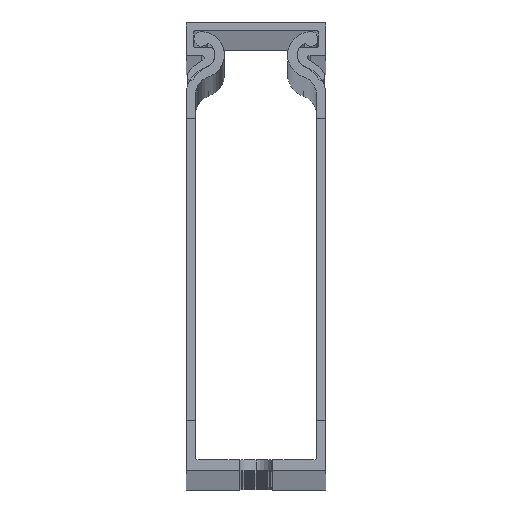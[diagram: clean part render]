
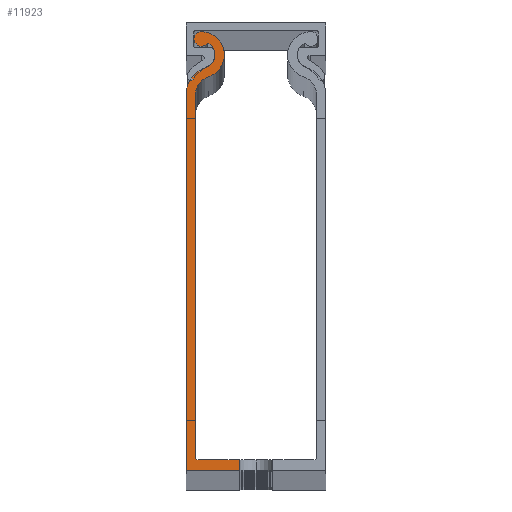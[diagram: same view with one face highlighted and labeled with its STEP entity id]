
A CAD part, top view. The second image highlights one B-rep face of the part: STEP entity #11923.
In plain terms, the highlighted planar face has unit normal (0, 0, 1).
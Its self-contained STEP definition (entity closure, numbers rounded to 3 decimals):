
#88 = CARTESIAN_POINT ( 'NONE',  ( 2561.007, 1284.233, 2000. ) ) ;
#339 = VERTEX_POINT ( 'NONE', #44025 ) ;
#529 = VERTEX_POINT ( 'NONE', #25516 ) ;
#583 = VECTOR ( 'NONE', #41980, 1000. ) ;
#1182 = VERTEX_POINT ( 'NONE', #14574 ) ;
#1408 = ORIENTED_EDGE ( 'NONE', *, *, #51309, .F. ) ;
#2083 = VERTEX_POINT ( 'NONE', #3494 ) ;
#2324 = DIRECTION ( 'NONE',  ( 1., 0., 0. ) ) ;
#2424 = DIRECTION ( 'NONE',  ( 0., 0., 1. ) ) ;
#2652 = VERTEX_POINT ( 'NONE', #40066 ) ;
#2765 = VERTEX_POINT ( 'NONE', #40251 ) ;
#2894 = DIRECTION ( 'NONE',  ( 1., 0., 0. ) ) ;
#3494 = CARTESIAN_POINT ( 'NONE',  ( 2559.41, 1289.077, 2000. ) ) ;
#3815 = CIRCLE ( 'NONE', #46711, 3.4 ) ;
#6164 = DIRECTION ( 'NONE',  ( 0., 0., 1. ) ) ;
#6311 = AXIS2_PLACEMENT_3D ( 'NONE', #47478, #2424, #51828 ) ;
#8371 = CARTESIAN_POINT ( 'NONE',  ( 2559.787, 1293.474, 2000. ) ) ;
#8866 = AXIS2_PLACEMENT_3D ( 'NONE', #31310, #6164, #34917 ) ;
#10380 = ORIENTED_EDGE ( 'NONE', *, *, #27915, .T. ) ;
#10501 = ORIENTED_EDGE ( 'NONE', *, *, #35392, .F. ) ;
#10719 = VERTEX_POINT ( 'NONE', #8371 ) ;
#10963 = CARTESIAN_POINT ( 'NONE',  ( 2558.657, 1294.213, 2000. ) ) ;
#11005 = AXIS2_PLACEMENT_3D ( 'NONE', #14173, #38954, #2324 ) ;
#11206 = EDGE_CURVE ( 'NONE', #24131, #2765, #3815, .T. ) ;
#11239 = ORIENTED_EDGE ( 'NONE', *, *, #17576, .F. ) ;
#11923 = ADVANCED_FACE ( 'NONE', ( #24902 ), #38502, .T. ) ;
#12255 = ORIENTED_EDGE ( 'NONE', *, *, #14363, .T. ) ;
#12573 = VECTOR ( 'NONE', #23634, 1000. ) ;
#12785 = VECTOR ( 'NONE', #29796, 1000. ) ;
#12791 = ORIENTED_EDGE ( 'NONE', *, *, #51377, .F. ) ;
#13501 = AXIS2_PLACEMENT_3D ( 'NONE', #17180, #21149, #25277 ) ;
#13698 = DIRECTION ( 'NONE',  ( 0., 0., 1. ) ) ;
#14173 = CARTESIAN_POINT ( 'NONE',  ( 2561.007, 1284.233, 2000. ) ) ;
#14363 = EDGE_CURVE ( 'NONE', #45404, #31692, #25280, .T. ) ;
#14574 = CARTESIAN_POINT ( 'NONE',  ( 2555.907, 1284.233, 2000. ) ) ;
#14863 = AXIS2_PLACEMENT_3D ( 'NONE', #10963, #39352, #2894 ) ;
#15390 = CIRCLE ( 'NONE', #11005, 5.1 ) ;
#16237 = DIRECTION ( 'NONE',  ( 0., 0., 1. ) ) ;
#16426 = DIRECTION ( 'NONE',  ( 0., 0., 1. ) ) ;
#16429 = DIRECTION ( 'NONE',  ( 1., 0., 0. ) ) ;
#16482 = EDGE_CURVE ( 'NONE', #31822, #2652, #45505, .T. ) ;
#17180 = CARTESIAN_POINT ( 'NONE',  ( 2558.657, 1294.213, 2000. ) ) ;
#17301 = EDGE_LOOP ( 'NONE', ( #33429, #1408, #10501, #11239, #34842, #34073, #28991, #12255, #32061, #48024, #22046, #10380, #12791, #48683 ) ) ;
#17576 = EDGE_CURVE ( 'NONE', #2765, #45792, #21549, .T. ) ;
#17774 = AXIS2_PLACEMENT_3D ( 'NONE', #44920, #24980, #49231 ) ;
#18339 = LINE ( 'NONE', #22285, #37621 ) ;
#18673 = VERTEX_POINT ( 'NONE', #43947 ) ;
#18860 = AXIS2_PLACEMENT_3D ( 'NONE', #30241, #13698, #42421 ) ;
#19282 = CIRCLE ( 'NONE', #6311, 3.4 ) ;
#20799 = EDGE_CURVE ( 'NONE', #2083, #1182, #15390, .T. ) ;
#20843 = CIRCLE ( 'NONE', #38399, 4.1 ) ;
#21038 = CARTESIAN_POINT ( 'NONE',  ( 2565.407, 1218.956, 2000. ) ) ;
#21081 = CIRCLE ( 'NONE', #21940, 5.1 ) ;
#21149 = DIRECTION ( 'NONE',  ( 0., 0., 1. ) ) ;
#21549 = LINE ( 'NONE', #24320, #12573 ) ;
#21940 = AXIS2_PLACEMENT_3D ( 'NONE', #36902, #16426, #53253 ) ;
#22046 = ORIENTED_EDGE ( 'NONE', *, *, #20799, .T. ) ;
#22058 = CARTESIAN_POINT ( 'NONE',  ( 0., 1218.956, 2000. ) ) ;
#22285 = CARTESIAN_POINT ( 'NONE',  ( 2565.407, 0., 2000. ) ) ;
#22944 = VERTEX_POINT ( 'NONE', #21038 ) ;
#23634 = DIRECTION ( 'NONE',  ( 0., -1., 0. ) ) ;
#24131 = VERTEX_POINT ( 'NONE', #29563 ) ;
#24320 = CARTESIAN_POINT ( 'NONE',  ( 2557.607, 0., 2000. ) ) ;
#24362 = CARTESIAN_POINT ( 'NONE',  ( 2565.407, 1217.056, 2000. ) ) ;
#24902 = FACE_OUTER_BOUND ( 'NONE', #17301, .T. ) ;
#24934 = VECTOR ( 'NONE', #43902, 1000. ) ;
#24980 = DIRECTION ( 'NONE',  ( 0., 0., 1. ) ) ;
#25277 = DIRECTION ( 'NONE',  ( 1., 0., 0. ) ) ;
#25280 = CIRCLE ( 'NONE', #13501, 1.35 ) ;
#25516 = CARTESIAN_POINT ( 'NONE',  ( 2555.907, 1284.196, 2000. ) ) ;
#25841 = CARTESIAN_POINT ( 'NONE',  ( 2555.907, 0., 2000. ) ) ;
#27627 = EDGE_CURVE ( 'NONE', #2083, #10719, #44148, .T. ) ;
#27915 = EDGE_CURVE ( 'NONE', #1182, #529, #21081, .T. ) ;
#28991 = ORIENTED_EDGE ( 'NONE', *, *, #33423, .T. ) ;
#29563 = CARTESIAN_POINT ( 'NONE',  ( 2557.607, 1284.233, 2000. ) ) ;
#29796 = DIRECTION ( 'NONE',  ( 1., 0., 0. ) ) ;
#30241 = CARTESIAN_POINT ( 'NONE',  ( 0., 0., 2000. ) ) ;
#30555 = DIRECTION ( 'NONE',  ( 0., -1., 0. ) ) ;
#31310 = CARTESIAN_POINT ( 'NONE',  ( 2558.659, 1291.356, 2000. ) ) ;
#31378 = CARTESIAN_POINT ( 'NONE',  ( 0., 1217.056, 2000. ) ) ;
#31692 = VERTEX_POINT ( 'NONE', #52421 ) ;
#31822 = VERTEX_POINT ( 'NONE', #24362 ) ;
#32061 = ORIENTED_EDGE ( 'NONE', *, *, #39723, .T. ) ;
#32182 = EDGE_CURVE ( 'NONE', #18673, #24131, #19282, .T. ) ;
#32352 = CARTESIAN_POINT ( 'NONE',  ( 2559.285, 1295.408, 2000. ) ) ;
#33403 = LINE ( 'NONE', #25841, #583 ) ;
#33423 = EDGE_CURVE ( 'NONE', #18673, #45404, #20843, .T. ) ;
#33429 = ORIENTED_EDGE ( 'NONE', *, *, #38760, .F. ) ;
#34073 = ORIENTED_EDGE ( 'NONE', *, *, #32182, .F. ) ;
#34842 = ORIENTED_EDGE ( 'NONE', *, *, #11206, .F. ) ;
#34917 = DIRECTION ( 'NONE',  ( 1., 0., 0. ) ) ;
#35392 = EDGE_CURVE ( 'NONE', #45792, #339, #46297, .T. ) ;
#36902 = CARTESIAN_POINT ( 'NONE',  ( 2561.007, 1284.233, 2000. ) ) ;
#37621 = VECTOR ( 'NONE', #30555, 1000. ) ;
#38399 = AXIS2_PLACEMENT_3D ( 'NONE', #42793, #43141, #50905 ) ;
#38502 = PLANE ( 'NONE',  #18860 ) ;
#38760 = EDGE_CURVE ( 'NONE', #22944, #31822, #18339, .T. ) ;
#38954 = DIRECTION ( 'NONE',  ( 0., 0., 1. ) ) ;
#39352 = DIRECTION ( 'NONE',  ( 0., 0., 1. ) ) ;
#39723 = EDGE_CURVE ( 'NONE', #31692, #10719, #52346, .T. ) ;
#40066 = CARTESIAN_POINT ( 'NONE',  ( 2555.907, 1217.056, 2000. ) ) ;
#40251 = CARTESIAN_POINT ( 'NONE',  ( 2557.607, 1284.203, 2000. ) ) ;
#41980 = DIRECTION ( 'NONE',  ( 0., 1., 0. ) ) ;
#42421 = DIRECTION ( 'NONE',  ( 1., 0., 0. ) ) ;
#42793 = CARTESIAN_POINT ( 'NONE',  ( 2558.659, 1291.356, 2000. ) ) ;
#43141 = DIRECTION ( 'NONE',  ( 0., 0., 1. ) ) ;
#43902 = DIRECTION ( 'NONE',  ( -1., 0., 0. ) ) ;
#43947 = CARTESIAN_POINT ( 'NONE',  ( 2559.942, 1287.462, 2000. ) ) ;
#44025 = CARTESIAN_POINT ( 'NONE',  ( 2558.107, 1218.956, 2000. ) ) ;
#44148 = CIRCLE ( 'NONE', #8866, 2.4 ) ;
#44272 = LINE ( 'NONE', #22058, #12785 ) ;
#44920 = CARTESIAN_POINT ( 'NONE',  ( 2558.107, 1219.456, 2000. ) ) ;
#45404 = VERTEX_POINT ( 'NONE', #32352 ) ;
#45505 = LINE ( 'NONE', #31378, #24934 ) ;
#45792 = VERTEX_POINT ( 'NONE', #50626 ) ;
#46297 = CIRCLE ( 'NONE', #17774, 0.5 ) ;
#46711 = AXIS2_PLACEMENT_3D ( 'NONE', #88, #16237, #16429 ) ;
#47478 = CARTESIAN_POINT ( 'NONE',  ( 2561.007, 1284.233, 2000. ) ) ;
#48024 = ORIENTED_EDGE ( 'NONE', *, *, #27627, .F. ) ;
#48683 = ORIENTED_EDGE ( 'NONE', *, *, #16482, .F. ) ;
#49231 = DIRECTION ( 'NONE',  ( 1., 0., 0. ) ) ;
#50626 = CARTESIAN_POINT ( 'NONE',  ( 2557.607, 1219.456, 2000. ) ) ;
#50905 = DIRECTION ( 'NONE',  ( 1., 0., 0. ) ) ;
#51309 = EDGE_CURVE ( 'NONE', #339, #22944, #44272, .T. ) ;
#51377 = EDGE_CURVE ( 'NONE', #2652, #529, #33403, .T. ) ;
#51828 = DIRECTION ( 'NONE',  ( 1., 0., 0. ) ) ;
#52346 = CIRCLE ( 'NONE', #14863, 1.35 ) ;
#52421 = CARTESIAN_POINT ( 'NONE',  ( 2557.307, 1294.213, 2000. ) ) ;
#53253 = DIRECTION ( 'NONE',  ( 1., 0., 0. ) ) ;
